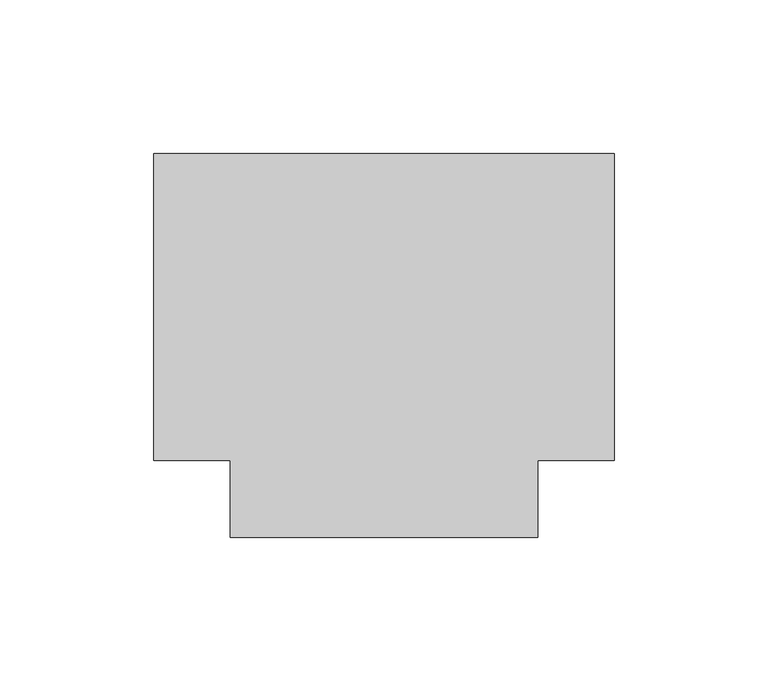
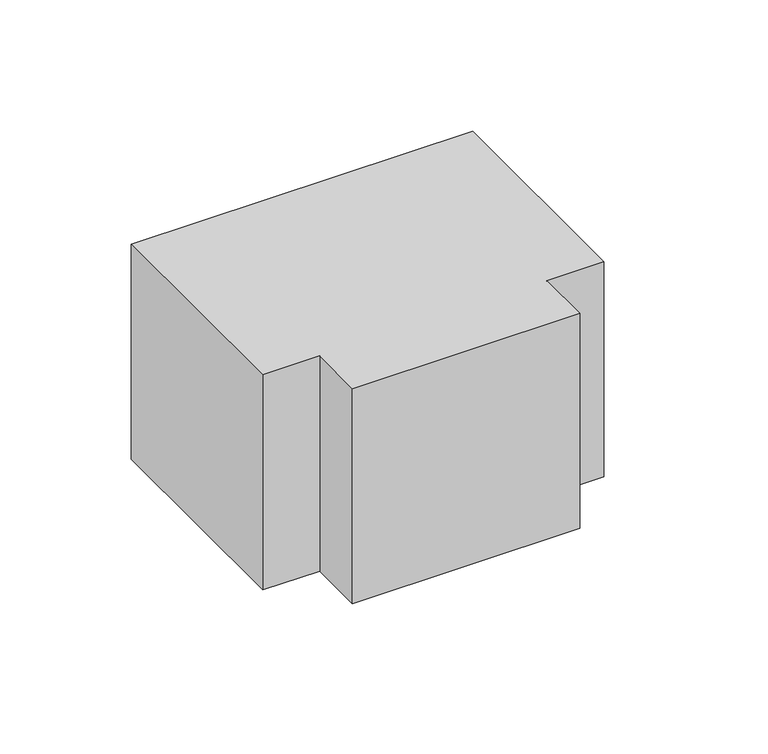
"""IFC4 building model written with IfcOpenShell, lengths in millimetres: duct fitting geometry, M_Te rectangular : Estándar."""

from ifc_helpers import new_model, si_unit, frame, origin, place, context, project, spatial, polyline, outline, extrude, source, transform, mapped, element, save


def duct_fitting_9f51d634(model_context):
    return source(origin(), model_context, "Body", "SweptSolid", [
        extrude(outline(polyline([(-75.0, -50.0), (-75.0, 50.0), (75.0, 50.0), (75.0, -50.0), (50.0, -50.0), (50.0, -75.0), (-50.0, -75.0), (-50.0, -50.0), (-75.0, -50.0)])), frame((0.0, 0.0, -50.0), z_axis=(0.0, 0.0, 1.0), x_axis=(1.0, 0.0, 0.0)), (0.0, 0.0, 1.0), 100.0),
    ])


if __name__ == "__main__":
    model = new_model("IFC4")
    model_context = context("Model", 3, world=origin())
    ifc_project = project(units=[si_unit("LENGTHUNIT", "METRE", prefix="MILLI")], contexts=[model_context])
    site = spatial("IfcSite", under=ifc_project)
    building = spatial("IfcBuilding", under=site)
    placement = place(None, origin())
    duct_fitting_shape = duct_fitting_9f51d634(model_context)
    element("IfcDuctFitting", 1, ObjectType="M_Te rectangular : Estándar", at=placement, inside=building, context=model_context, shape_type="MappedRepresentation", body=[
        mapped(duct_fitting_shape, transform((0.0, 0.0, 0.0), x_axis=(1.0, 0.0, 0.0), y_axis=(0.0, 1.0, 0.0), z_axis=(0.0, 0.0, 1.0))),
    ])
    save(model, "model.ifc")
